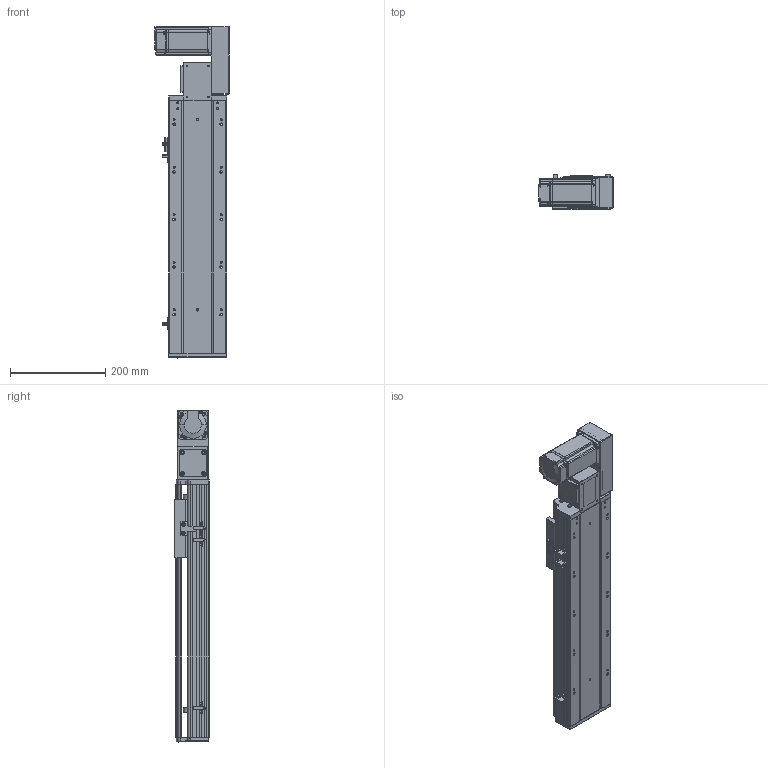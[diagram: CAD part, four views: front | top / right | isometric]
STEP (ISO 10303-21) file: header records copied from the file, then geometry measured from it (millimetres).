
FILE_DESCRIPTION (( 'STEP AP203' ), '1' );
FILE_NAME ('RY120-T-300-RK.SLDASM_300.step', '2021-03-01T03:52:09', ( '盈信电脑' ), ( '东莞市道滘镇水果街19号' ), 'SwSTEP 2.0', 'SolidWorks 2012', '' );
FILE_SCHEMA (( 'CONFIG_CONTROL_DESIGN' ));
Length unit declared in the file: millimetre
Products named in the file (17): RY120-T蹟翐M4; RY120-T主同步轮轴承压盖; RY120-T-300-RK.SLDASM_300; RY120-T萇儂欶; RY120-T翋肮祭謫裔啣; 滅袉蝶18-10; 15; RY120-T萇儂假蚾啣; RY120-T肮祭湍揤踡輸1; RY120外置感应片(140共用）; RY120-T翋肮祭盓傅釱; RY120-T肮祭湍揤踡輸2; RY120肮祭湍臏賑輸; RY120綴裔啣; 覜茼ん672; RY120-T-300-RK倰第菁釱; RY120-T-300-RK倰第奻裔啣_300
Assembly tree (22 placements, depth 2):
  RY120-T-300-RK.SLDASM_300
    RY120-T-300-RK倰第菁釱
    RY120-T-300-RK倰第奻裔啣_300
    RY120肮祭湍臏賑輸
    RY120綴裔啣
    覜茼ん672  x3
    RY120外置感应片(140共用）
    RY120-T肮祭湍揤踡輸1
    RY120-T肮祭湍揤踡輸2
    RY120-T翋肮祭盓傅釱
    滅袉蝶18-10  x2
    RY120-T翋肮祭謫裔啣
    15
    RY120-T萇儂假蚾啣
    RY120-T蹟翐M4  x4
    RY120-T萇儂欶
    RY120-T主同步轮轴承压盖
Bounding box: 155.5 x 73 x 697.5 mm (x, y, z)
Volume: 2083829.9 mm3; surface area: 743301.9 mm2
Topology: 23 solids, 23 shells, 2632 faces, 7156 edges, 4614 vertices
Faces by surface type: plane 1392, cylinder 954, cone 197, bspline 89
Entity records: 83085 total; most frequent: CARTESIAN_POINT 20708, ORIENTED_EDGE 12832, DIRECTION 12158, EDGE_CURVE 6416, VERTEX_POINT 4201, VECTOR 4112, LINE 4112, AXIS2_PLACEMENT_3D 4023
